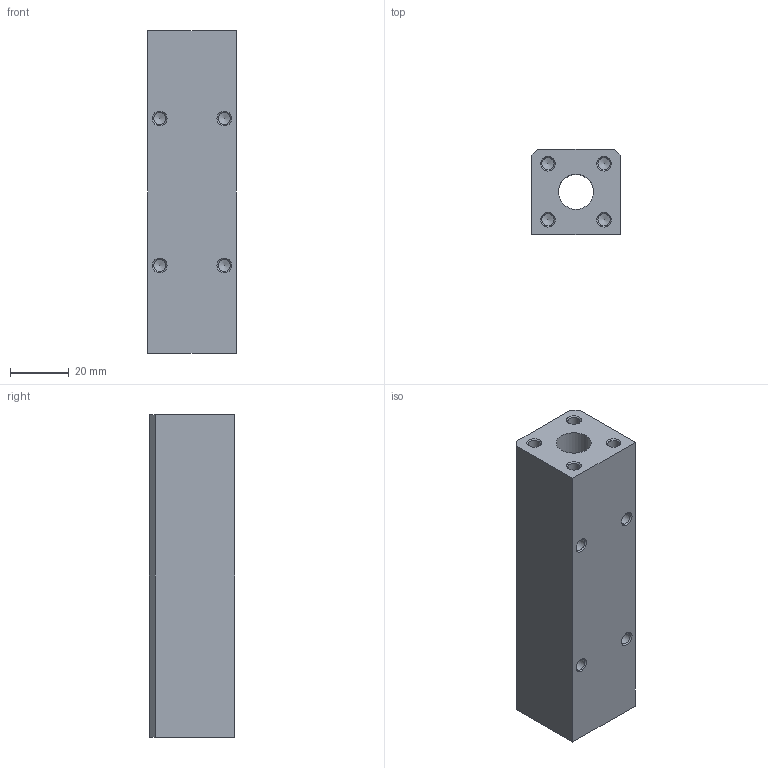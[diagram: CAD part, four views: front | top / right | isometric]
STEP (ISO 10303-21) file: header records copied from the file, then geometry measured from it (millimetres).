
FILE_DESCRIPTION( ( 'STEP AP214' ), '1' );
FILE_NAME( 'U:/Etudes/Top Solid/BIBLIO 3D AVM/STEP/PNEUMATIQUE/GUIDAGES/Accessoires/Paliers/513645_.step', '2005-05-04T12:38:41', ( ' ' ), ( ' ' ), 'XStep 1.0', ' ', ' ' );
FILE_SCHEMA( ( 'automotive_design' ) );
Length unit declared in the file: metre
Products named in the file (1): 1
Bounding box: 30 x 29 x 110 mm (x, y, z)
Volume: 81500.4 mm3; surface area: 19658.7 mm2
Topology: 1 solids, 1 shells, 65 faces, 141 edges, 94 vertices
Faces by surface type: cylinder 25, plane 24, cone 16
Full cylindrical faces by diameter (mm): 4.134 x16, 5.1 x8, 12 x1
Entity records: 1944 total; most frequent: DIRECTION 266, CARTESIAN_POINT 220, ORIENTED_EDGE 152, AXIS2_PLACEMENT_3D 124, EDGE_LOOP 124, FACE_OUTER_BOUND 90, VERTEX_POINT 78, EDGE_CURVE 76
